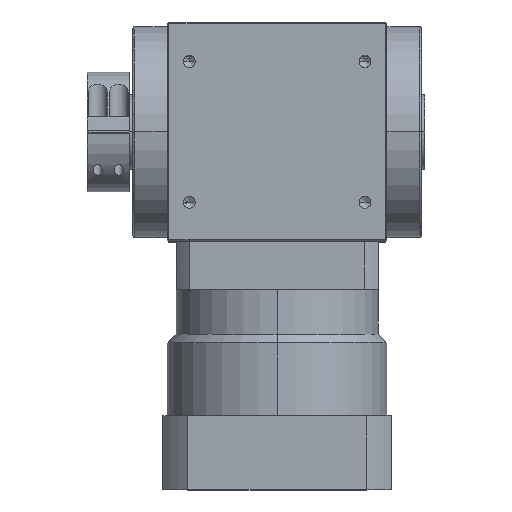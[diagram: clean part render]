
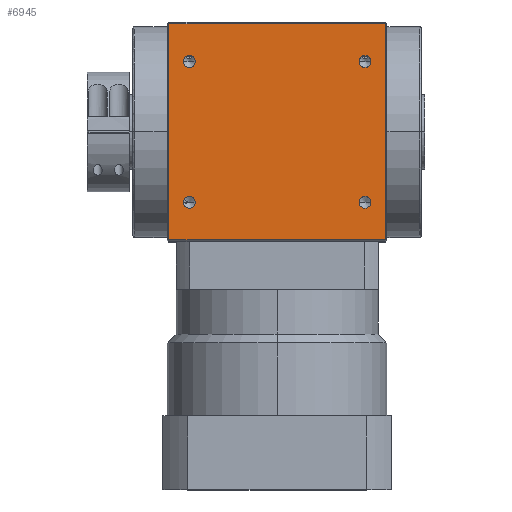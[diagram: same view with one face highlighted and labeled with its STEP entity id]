
A CAD part, top view. The second image highlights one B-rep face of the part: STEP entity #6945.
In plain terms, the highlighted planar face has unit normal (0, 0, 1).
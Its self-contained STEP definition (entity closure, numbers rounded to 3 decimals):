
#90 = CARTESIAN_POINT ( 'NONE',  ( 53.4, 40., 62.5 ) ) ;
#170 = EDGE_CURVE ( 'NONE', #583, #1889, #1493, .T. ) ;
#180 = CIRCLE ( 'NONE', #10168, 3.4 ) ;
#403 = CIRCLE ( 'NONE', #6669, 3.4 ) ;
#512 = ORIENTED_EDGE ( 'NONE', *, *, #4485, .F. ) ;
#535 = CARTESIAN_POINT ( 'NONE',  ( 53.4, -40., 62.5 ) ) ;
#583 = VERTEX_POINT ( 'NONE', #8211 ) ;
#910 = LINE ( 'NONE', #9075, #945 ) ;
#945 = VECTOR ( 'NONE', #9045, 1000. ) ;
#987 = EDGE_LOOP ( 'NONE', ( #10661, #3134 ) ) ;
#997 = VERTEX_POINT ( 'NONE', #2107 ) ;
#1191 = EDGE_CURVE ( 'NONE', #10589, #997, #10202, .T. ) ;
#1227 = EDGE_CURVE ( 'NONE', #8551, #10589, #910, .T. ) ;
#1250 = EDGE_CURVE ( 'NONE', #6111, #3468, #7073, .T. ) ;
#1262 = EDGE_CURVE ( 'NONE', #8128, #7329, #180, .T. ) ;
#1311 = DIRECTION ( 'NONE',  ( 1., 0., 0. ) ) ;
#1325 = DIRECTION ( 'NONE',  ( 0., 0., -1. ) ) ;
#1330 = FACE_BOUND ( 'NONE', #10106, .T. ) ;
#1335 = CARTESIAN_POINT ( 'NONE',  ( 50., 40., 62.5 ) ) ;
#1345 = EDGE_CURVE ( 'NONE', #997, #7823, #8502, .T. ) ;
#1407 = DIRECTION ( 'NONE',  ( -1., 0., 0. ) ) ;
#1475 = DIRECTION ( 'NONE',  ( 1., 0., 0. ) ) ;
#1480 = DIRECTION ( 'NONE',  ( 0., 0., 1. ) ) ;
#1486 = CARTESIAN_POINT ( 'NONE',  ( 50., -40., 62.5 ) ) ;
#1493 = CIRCLE ( 'NONE', #2820, 3.4 ) ;
#1559 = EDGE_LOOP ( 'NONE', ( #6750, #6619, #7385, #7517 ) ) ;
#1644 = VECTOR ( 'NONE', #9625, 1000. ) ;
#1659 = EDGE_CURVE ( 'NONE', #9488, #10649, #403, .T. ) ;
#1676 = EDGE_CURVE ( 'NONE', #1889, #583, #5519, .T. ) ;
#1678 = EDGE_CURVE ( 'NONE', #8551, #7823, #7124, .T. ) ;
#1880 = AXIS2_PLACEMENT_3D ( 'NONE', #3003, #5114, #1407 ) ;
#1889 = VERTEX_POINT ( 'NONE', #2247 ) ;
#2107 = CARTESIAN_POINT ( 'NONE',  ( -61.5, -61.5, 62.5 ) ) ;
#2247 = CARTESIAN_POINT ( 'NONE',  ( -53.4, 40., 62.5 ) ) ;
#2276 = PLANE ( 'NONE',  #1880 ) ;
#2820 = AXIS2_PLACEMENT_3D ( 'NONE', #9597, #9662, #3369 ) ;
#3003 = CARTESIAN_POINT ( 'NONE',  ( 61.5, -61.5, 62.5 ) ) ;
#3134 = ORIENTED_EDGE ( 'NONE', *, *, #5112, .F. ) ;
#3171 = VECTOR ( 'NONE', #4493, 1000. ) ;
#3369 = DIRECTION ( 'NONE',  ( 1., 0., 0. ) ) ;
#3398 = CARTESIAN_POINT ( 'NONE',  ( -61.5, 61.5, 62.5 ) ) ;
#3432 = CARTESIAN_POINT ( 'NONE',  ( -50., -40., 62.5 ) ) ;
#3468 = VERTEX_POINT ( 'NONE', #6401 ) ;
#3542 = DIRECTION ( 'NONE',  ( 0., 0., 1. ) ) ;
#3685 = DIRECTION ( 'NONE',  ( 1., 0., 0. ) ) ;
#4047 = ORIENTED_EDGE ( 'NONE', *, *, #170, .T. ) ;
#4202 = CARTESIAN_POINT ( 'NONE',  ( 61.5, 61.5, 62.5 ) ) ;
#4387 = DIRECTION ( 'NONE',  ( 1., 0., 0. ) ) ;
#4395 = DIRECTION ( 'NONE',  ( 0., 0., -1. ) ) ;
#4406 = CARTESIAN_POINT ( 'NONE',  ( -50., 40., 62.5 ) ) ;
#4469 = CARTESIAN_POINT ( 'NONE',  ( 61.5, 61.5, 62.5 ) ) ;
#4485 = EDGE_CURVE ( 'NONE', #7329, #8128, #5881, .T. ) ;
#4493 = DIRECTION ( 'NONE',  ( -1., 0., 0. ) ) ;
#4548 = EDGE_CURVE ( 'NONE', #10649, #9488, #9011, .T. ) ;
#4606 = ORIENTED_EDGE ( 'NONE', *, *, #1659, .T. ) ;
#4611 = CARTESIAN_POINT ( 'NONE',  ( -46.6, -40., 62.5 ) ) ;
#4615 = DIRECTION ( 'NONE',  ( 1., 0., 0. ) ) ;
#4616 = DIRECTION ( 'NONE',  ( 0., 0., -1. ) ) ;
#4628 = CARTESIAN_POINT ( 'NONE',  ( 50., 40., 62.5 ) ) ;
#5007 = ORIENTED_EDGE ( 'NONE', *, *, #1676, .T. ) ;
#5086 = FACE_BOUND ( 'NONE', #7147, .T. ) ;
#5112 = EDGE_CURVE ( 'NONE', #3468, #6111, #6484, .T. ) ;
#5114 = DIRECTION ( 'NONE',  ( 0., 0., -1. ) ) ;
#5519 = CIRCLE ( 'NONE', #6873, 3.4 ) ;
#5785 = FACE_OUTER_BOUND ( 'NONE', #1559, .T. ) ;
#5881 = CIRCLE ( 'NONE', #9425, 3.4 ) ;
#6111 = VERTEX_POINT ( 'NONE', #4611 ) ;
#6336 = VECTOR ( 'NONE', #8306, 1000. ) ;
#6401 = CARTESIAN_POINT ( 'NONE',  ( -53.4, -40., 62.5 ) ) ;
#6484 = CIRCLE ( 'NONE', #7492, 3.4 ) ;
#6619 = ORIENTED_EDGE ( 'NONE', *, *, #1345, .F. ) ;
#6669 = AXIS2_PLACEMENT_3D ( 'NONE', #4628, #4616, #4615 ) ;
#6750 = ORIENTED_EDGE ( 'NONE', *, *, #1678, .T. ) ;
#6873 = AXIS2_PLACEMENT_3D ( 'NONE', #4406, #4395, #4387 ) ;
#6891 = ORIENTED_EDGE ( 'NONE', *, *, #4548, .T. ) ;
#6945 = ADVANCED_FACE ( 'NONE', ( #1330, #8411, #9374, #5086, #5785 ), #2276, .F. ) ;
#7073 = CIRCLE ( 'NONE', #10745, 3.4 ) ;
#7124 = LINE ( 'NONE', #4469, #3171 ) ;
#7147 = EDGE_LOOP ( 'NONE', ( #4047, #5007 ) ) ;
#7329 = VERTEX_POINT ( 'NONE', #9615 ) ;
#7385 = ORIENTED_EDGE ( 'NONE', *, *, #1191, .F. ) ;
#7492 = AXIS2_PLACEMENT_3D ( 'NONE', #3432, #3542, #3685 ) ;
#7517 = ORIENTED_EDGE ( 'NONE', *, *, #1227, .F. ) ;
#7823 = VERTEX_POINT ( 'NONE', #3398 ) ;
#7934 = CARTESIAN_POINT ( 'NONE',  ( 46.6, 40., 62.5 ) ) ;
#8128 = VERTEX_POINT ( 'NONE', #535 ) ;
#8211 = CARTESIAN_POINT ( 'NONE',  ( -46.6, 40., 62.5 ) ) ;
#8269 = CARTESIAN_POINT ( 'NONE',  ( -61.5, -61.5, 62.5 ) ) ;
#8306 = DIRECTION ( 'NONE',  ( 0., 1., 0. ) ) ;
#8411 = FACE_BOUND ( 'NONE', #987, .T. ) ;
#8445 = ORIENTED_EDGE ( 'NONE', *, *, #1262, .F. ) ;
#8502 = LINE ( 'NONE', #8269, #6336 ) ;
#8551 = VERTEX_POINT ( 'NONE', #4202 ) ;
#8762 = DIRECTION ( 'NONE',  ( 1., 0., 0. ) ) ;
#8773 = DIRECTION ( 'NONE',  ( 0., 0., 1. ) ) ;
#8778 = CARTESIAN_POINT ( 'NONE',  ( 50., -40., 62.5 ) ) ;
#8805 = DIRECTION ( 'NONE',  ( 1., 0., 0. ) ) ;
#8821 = DIRECTION ( 'NONE',  ( 0., 0., 1. ) ) ;
#8829 = CARTESIAN_POINT ( 'NONE',  ( -50., -40., 62.5 ) ) ;
#9011 = CIRCLE ( 'NONE', #9226, 3.4 ) ;
#9045 = DIRECTION ( 'NONE',  ( 0., -1., 0. ) ) ;
#9075 = CARTESIAN_POINT ( 'NONE',  ( 61.5, -61.5, 62.5 ) ) ;
#9226 = AXIS2_PLACEMENT_3D ( 'NONE', #1335, #1325, #1311 ) ;
#9374 = FACE_BOUND ( 'NONE', #9645, .T. ) ;
#9409 = CARTESIAN_POINT ( 'NONE',  ( 61.5, -61.5, 62.5 ) ) ;
#9425 = AXIS2_PLACEMENT_3D ( 'NONE', #1486, #1480, #1475 ) ;
#9430 = CARTESIAN_POINT ( 'NONE',  ( 61.5, -61.5, 62.5 ) ) ;
#9488 = VERTEX_POINT ( 'NONE', #7934 ) ;
#9597 = CARTESIAN_POINT ( 'NONE',  ( -50., 40., 62.5 ) ) ;
#9615 = CARTESIAN_POINT ( 'NONE',  ( 46.6, -40., 62.5 ) ) ;
#9625 = DIRECTION ( 'NONE',  ( -1., 0., 0. ) ) ;
#9645 = EDGE_LOOP ( 'NONE', ( #6891, #4606 ) ) ;
#9662 = DIRECTION ( 'NONE',  ( 0., 0., -1. ) ) ;
#10106 = EDGE_LOOP ( 'NONE', ( #8445, #512 ) ) ;
#10168 = AXIS2_PLACEMENT_3D ( 'NONE', #8778, #8773, #8762 ) ;
#10202 = LINE ( 'NONE', #9430, #1644 ) ;
#10589 = VERTEX_POINT ( 'NONE', #9409 ) ;
#10649 = VERTEX_POINT ( 'NONE', #90 ) ;
#10661 = ORIENTED_EDGE ( 'NONE', *, *, #1250, .F. ) ;
#10745 = AXIS2_PLACEMENT_3D ( 'NONE', #8829, #8821, #8805 ) ;
